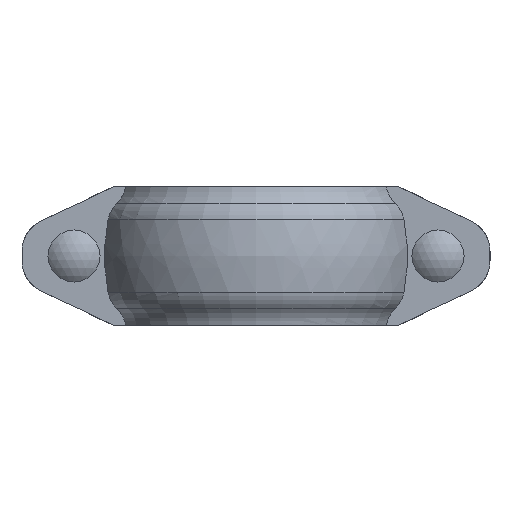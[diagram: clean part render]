
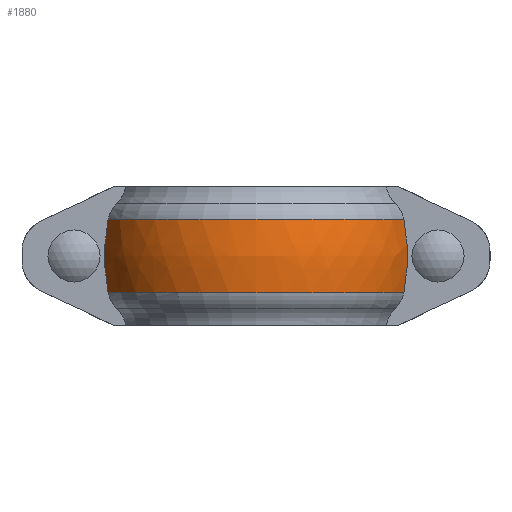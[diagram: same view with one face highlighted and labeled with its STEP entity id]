
A CAD part, front view. The second image highlights one B-rep face of the part: STEP entity #1880.
In plain terms, the highlighted free-form (B-spline) face has degree [2, 2] with [3, 5] control points.
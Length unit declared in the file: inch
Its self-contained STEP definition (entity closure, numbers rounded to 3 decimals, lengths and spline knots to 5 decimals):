
#27=(
BOUNDED_SURFACE()
B_SPLINE_SURFACE(2,2,((#3381,#3382,#3383,#3384,#3385),(#3386,#3387,#3388,
#3389,#3390),(#3391,#3392,#3393,#3394,#3395)),.UNSPECIFIED.,.F.,.F.,.F.)
B_SPLINE_SURFACE_WITH_KNOTS((3,3),(3,2,3),(-0.1767,0.1767),
(0.33907,1.5708,2.80252),.UNSPECIFIED.)
GEOMETRIC_REPRESENTATION_ITEM()
RATIONAL_B_SPLINE_SURFACE(((1.,0.816,1.,0.816,1.),
(0.984,0.804,0.984,0.804,
0.984),(1.,0.816,1.,0.816,1.)))
REPRESENTATION_ITEM('')
SURFACE()
);
#62=B_SPLINE_CURVE_WITH_KNOTS('',3,(#3114,#3115,#3116,#3117,#3118,#3119,
#3120,#3121,#3122,#3123),.UNSPECIFIED.,.F.,.F.,(4,2,2,2,4),(7.69704,
7.95617,8.95711,9.95805,10.21719),
 .UNSPECIFIED.);
#72=B_SPLINE_CURVE_WITH_KNOTS('',3,(#3244,#3245,#3246,#3247,#3248,#3249,
#3250,#3251,#3252,#3253),.UNSPECIFIED.,.F.,.F.,(4,2,2,2,4),(25.61126,
25.87039,26.87134,27.87228,28.13141),
 .UNSPECIFIED.);
#236=FACE_OUTER_BOUND('',#341,.T.);
#341=EDGE_LOOP('',(#1665,#1666,#1667,#1668));
#696=CIRCLE('',#2096,2.26829);
#701=CIRCLE('',#2107,2.26829);
#855=VERTEX_POINT('',#3102);
#856=VERTEX_POINT('',#3113);
#870=VERTEX_POINT('',#3232);
#871=VERTEX_POINT('',#3243);
#1097=EDGE_CURVE('',#856,#855,#62,.T.);
#1118=EDGE_CURVE('',#871,#870,#72,.T.);
#1137=EDGE_CURVE('',#871,#855,#696,.T.);
#1142=EDGE_CURVE('',#870,#856,#701,.T.);
#1665=ORIENTED_EDGE('',*,*,#1097,.T.);
#1666=ORIENTED_EDGE('',*,*,#1137,.F.);
#1667=ORIENTED_EDGE('',*,*,#1118,.T.);
#1668=ORIENTED_EDGE('',*,*,#1142,.T.);
#1880=ADVANCED_FACE('',(#236),#27,.F.);
#2096=AXIS2_PLACEMENT_3D('',#3369,#2588,#2589);
#2107=AXIS2_PLACEMENT_3D('',#3380,#2610,#2611);
#2588=DIRECTION('center_axis',(0.,0.,-1.));
#2589=DIRECTION('ref_axis',(1.,0.,0.));
#2610=DIRECTION('center_axis',(0.,0.,-1.));
#2611=DIRECTION('ref_axis',(1.,0.,0.));
#3102=CARTESIAN_POINT('',(2.1336,0.77,-0.52734));
#3113=CARTESIAN_POINT('',(2.1336,0.77,0.52734));
#3114=CARTESIAN_POINT('Ctrl Pts',(2.1336,0.77,0.52734));
#3115=CARTESIAN_POINT('Ctrl Pts',(2.1405,0.77,0.49098));
#3116=CARTESIAN_POINT('Ctrl Pts',(2.14672,0.77,0.45428));
#3117=CARTESIAN_POINT('Ctrl Pts',(2.17344,0.77,0.27527));
#3118=CARTESIAN_POINT('Ctrl Pts',(2.18319,0.77,0.13136));
#3119=CARTESIAN_POINT('Ctrl Pts',(2.18319,0.77,-0.13136));
#3120=CARTESIAN_POINT('Ctrl Pts',(2.17344,0.77,-0.27527));
#3121=CARTESIAN_POINT('Ctrl Pts',(2.14672,0.77,-0.45428));
#3122=CARTESIAN_POINT('Ctrl Pts',(2.1405,0.77,-0.49098));
#3123=CARTESIAN_POINT('Ctrl Pts',(2.1336,0.77,-0.52734));
#3232=CARTESIAN_POINT('',(-2.1336,0.77,0.52734));
#3243=CARTESIAN_POINT('',(-2.1336,0.77,-0.52734));
#3244=CARTESIAN_POINT('Ctrl Pts',(-2.1336,0.77,-0.52734));
#3245=CARTESIAN_POINT('Ctrl Pts',(-2.1405,0.77,-0.49098));
#3246=CARTESIAN_POINT('Ctrl Pts',(-2.14672,0.77,-0.45428));
#3247=CARTESIAN_POINT('Ctrl Pts',(-2.17344,0.77,-0.27527));
#3248=CARTESIAN_POINT('Ctrl Pts',(-2.18319,0.77,-0.13136));
#3249=CARTESIAN_POINT('Ctrl Pts',(-2.18319,0.77,0.13136));
#3250=CARTESIAN_POINT('Ctrl Pts',(-2.17344,0.77,0.27527));
#3251=CARTESIAN_POINT('Ctrl Pts',(-2.14672,0.77,0.45428));
#3252=CARTESIAN_POINT('Ctrl Pts',(-2.1405,0.77,0.49098));
#3253=CARTESIAN_POINT('Ctrl Pts',(-2.1336,0.77,0.52734));
#3369=CARTESIAN_POINT('Origin',(0.,0.,-0.52734));
#3380=CARTESIAN_POINT('Origin',(0.,0.,0.52734));
#3381=CARTESIAN_POINT('Ctrl Pts',(-2.13914,0.75446,0.52734));
#3382=CARTESIAN_POINT('Ctrl Pts',(-1.60522,2.26829,0.52734));
#3383=CARTESIAN_POINT('Ctrl Pts',(0.,2.26829,0.52734));
#3384=CARTESIAN_POINT('Ctrl Pts',(1.60522,2.26829,0.52734));
#3385=CARTESIAN_POINT('Ctrl Pts',(2.13914,0.75446,0.52734));
#3386=CARTESIAN_POINT('Ctrl Pts',(-2.22794,0.78578,0.));
#3387=CARTESIAN_POINT('Ctrl Pts',(-1.67186,2.36245,0.));
#3388=CARTESIAN_POINT('Ctrl Pts',(0.,2.36245,0.));
#3389=CARTESIAN_POINT('Ctrl Pts',(1.67186,2.36245,0.));
#3390=CARTESIAN_POINT('Ctrl Pts',(2.22794,0.78578,0.));
#3391=CARTESIAN_POINT('Ctrl Pts',(-2.13914,0.75446,-0.52734));
#3392=CARTESIAN_POINT('Ctrl Pts',(-1.60522,2.26829,-0.52734));
#3393=CARTESIAN_POINT('Ctrl Pts',(0.,2.26829,-0.52734));
#3394=CARTESIAN_POINT('Ctrl Pts',(1.60522,2.26829,-0.52734));
#3395=CARTESIAN_POINT('Ctrl Pts',(2.13914,0.75446,-0.52734));
